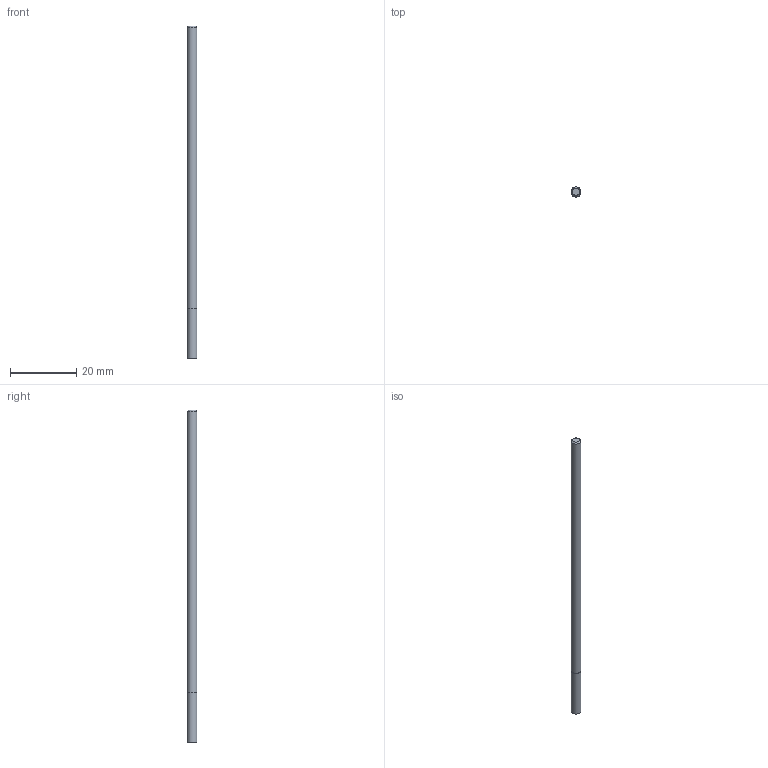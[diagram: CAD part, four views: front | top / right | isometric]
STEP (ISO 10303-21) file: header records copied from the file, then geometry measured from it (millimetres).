
FILE_DESCRIPTION((''),'2;1');
FILE_NAME('C:\Users\nsx150\Desktop\RSE230_20210427\01-00644-03003 RSE230 D3X15Xd3.step','2021-05-07T14:53:52',(''),(''),'STEP Write','Mastercam 2021 ... CNC Software, Inc.','');
FILE_SCHEMA(('AUTOMOTIVE_DESIGN'));
Length unit declared in the file: millimetre
Products named in the file (1): None
Bounding box: 3 x 3 x 100 mm (x, y, z)
Volume: 706.2 mm3; surface area: 968.3 mm2
Topology: 2 solids, 2 shells, 7 faces, 8 edges, 5 vertices
Faces by surface type: plane 4, cylinder 2, cone 1
Full cylindrical faces by diameter (mm): 3 x2
Entity records: 169 total; most frequent: DIRECTION 28, CARTESIAN_POINT 19, AXIS2_PLACEMENT_3D 14, ORIENTED_EDGE 10, EDGE_LOOP 10, STYLED_ITEM 10, ADVANCED_FACE 7, VERTEX_POINT 5
